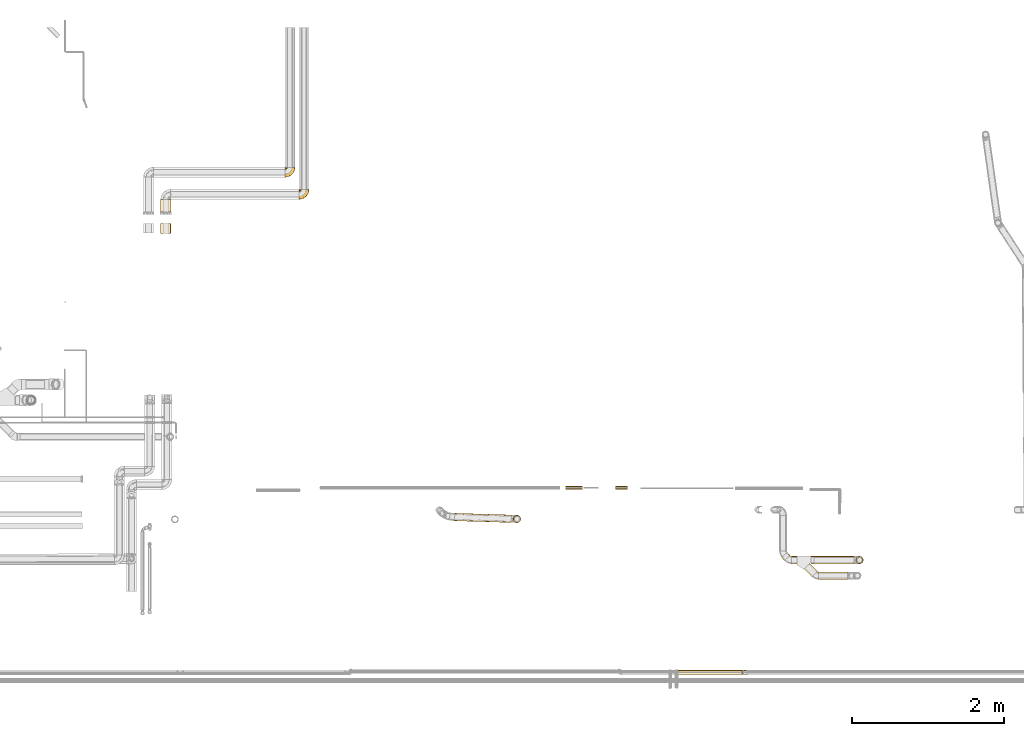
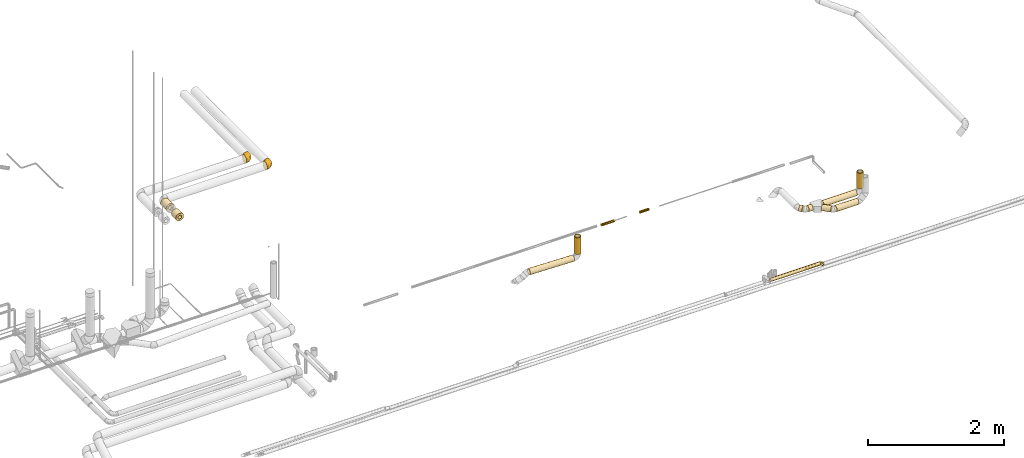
# One storey, part 5 of 156: 16 coverings.
"""IFC2X3 building model written with IfcOpenShell, lengths in millimetres."""

from ifc_helpers import new_model, entity, si_unit, converted_unit, derived_unit, direction, frame, origin_with_axes, origin_2d_with_axis, place, context, subcontext, project, spatial, hollow_circle, extrude, open_shell, surface_model, source, transform, mapped, element, save


model = new_model("IFC2X3")

# Units and contexts
model_context = context("Model", 3, precision=0.01, world=frame((0.0, 4.29681676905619e-09, 0.0)), true_north=direction((4.01073788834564e-13, 1.0)))
plan_context = context("Plan", 3, precision=0.01, world=frame((0.0, 4.29681676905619e-09, 0.0)), true_north=direction((4.01073788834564e-13, 1.0)))
body_context = subcontext(model_context, "Body", "Model", "MODEL_VIEW")
ifc_project = project(units=[converted_unit("PLANEANGLEUNIT", "DEGREE", entity("IfcPositiveLengthMeasure", 0.0174532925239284), si_unit("PLANEANGLEUNIT", "RADIAN"), dimensions=[0, 0, 0, 0, 0, 0, 0]), si_unit("AREAUNIT", "SQUARE_METRE"), si_unit("LENGTHUNIT", "METRE", prefix="MILLI"), si_unit("MASSUNIT", "GRAM", prefix="KILO"), si_unit("POWERUNIT", "WATT"), si_unit("PRESSUREUNIT", "PASCAL", prefix="KILO"), si_unit("FORCEUNIT", "NEWTON", prefix="KILO"), si_unit("ELECTRICVOLTAGEUNIT", "VOLT"), si_unit("ELECTRICCURRENTUNIT", "AMPERE"), si_unit("THERMODYNAMICTEMPERATUREUNIT", "DEGREE_CELSIUS"), si_unit("TIMEUNIT", "SECOND"), si_unit("VOLUMEUNIT", "CUBIC_METRE"), derived_unit("LINEARVELOCITYUNIT", [(si_unit("LENGTHUNIT", "METRE"), 1), (si_unit("TIMEUNIT", "SECOND"), -1)]), derived_unit("VOLUMETRICFLOWRATEUNIT", [(si_unit("VOLUMEUNIT", "CUBIC_METRE"), 1), (si_unit("TIMEUNIT", "SECOND"), -1)]), derived_unit("THERMALTRANSMITTANCEUNIT", [(si_unit("POWERUNIT", "WATT"), 1), (si_unit("THERMODYNAMICTEMPERATUREUNIT", "KELVIN"), -1), (si_unit("AREAUNIT", "SQUARE_METRE"), -1)]), derived_unit("SOUNDPRESSUREUNIT", [(si_unit("PRESSUREUNIT", "PASCAL"), 1)])], contexts=[model_context, plan_context])

# Site, building, storey
site_placement = place(None, frame((0.0, -4.29681676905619e-09, 0.0), z_axis=(0.0, 0.0, 1.0), x_axis=(1.0, 0.0, 0.0)))
site = spatial("IfcSite", under=ifc_project, at=site_placement, CompositionType="ELEMENT")
building_placement = place(site_placement, frame((0.0, 4.29681676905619e-09, 0.0), z_axis=(0.0, 0.0, 1.0), x_axis=(1.0, 0.0, 0.0)))
building = spatial("IfcBuilding", under=site, at=building_placement, Name="mc-building", CompositionType="ELEMENT")
storey_placement = place(building_placement, frame((0.0, 0.0, 205200.0), z_axis=(0.0, 0.0, 1.0), x_axis=(1.0, 0.0, 0.0)))
storey = spatial("IfcBuildingStorey", under=building, at=storey_placement, Name="Nivå D + 1,2 m", CompositionType="ELEMENT", Elevation=205200.0)

# Coverings
shared_shape_1 = source(origin_with_axes(), body_context, "Body", "SurfaceModel", [
    surface_model("IfcShellBasedSurfaceModel", [(13.1732, 65.0, 66.20209), (25.83774, 65.0, 62.35913), (37.50754, 65.0, 56.11983), (0.0, 65.0, 67.5), (62.36357, 65.0, 25.82703), (66.2036, 65.0, 13.1656), (47.7349, 65.0, 47.72452), (56.12755, 65.0, 37.49598), (-14.37401, 65.0, 65.95178), (-64.81475, 65.0, -18.84935), (-51.08854, 65.0, 44.11588), (-28.09151, 65.0, 61.37685), (-40.51981, 65.0, 53.98514), (-64.81475, 65.0, 18.84935), (-59.31267, 65.0, 32.22201), (66.20209, 65.0, -13.1732), (67.5, 65.0, 0.0), (56.11983, 65.0, -37.50754), (62.35913, 65.0, -25.83774), (47.72452, 65.0, -47.7349), (37.49598, 65.0, -56.12755), (25.82703, 65.0, -62.36357), (-40.52239, 65.0, -53.98321), (-51.09064, 65.0, -44.11345), (-59.31419, 65.0, -32.21921), (-28.09443, 65.0, -61.37551), (0.0, 65.0, -67.5), (-14.37712, 65.0, -65.95111), (13.1656, 65.0, -66.2036), (-65.0, 64.81475, -18.84935), (-65.0, 57.87557, -34.73714), (-65.0, 47.11836, -48.33333), (-65.0, 33.25277, -58.74099), (-65.0, 17.19351, -65.27353), (-65.0, 64.81475, 18.84935), (-65.0, -33.75, 58.45672), (-65.0, 57.87557, 34.73714), (-65.0, 33.25277, 58.74099), (-65.0, 47.11836, 48.33333), (-65.0, 0.0, 67.5), (-65.0, 17.19351, 65.27353), (-65.0, 0.0, -67.5), (-65.0, -17.47029, -65.19999), (-65.0, -67.5, 0.0), (-65.0, -58.45672, -33.75), (-65.0, -33.75, -58.45672), (-65.0, -47.72971, -47.72971), (-65.0, -65.19999, -17.47029), (-65.0, -47.72971, 47.72971), (-65.0, -17.47029, 65.19999), (-65.0, -58.45672, 33.75), (-65.0, -65.19999, 17.47029), (-64.86901, 64.86901, 18.84935), (-64.86901, 64.86901, -18.84935), (-62.35297, 53.22925, -41.88204), (-63.78423, 60.63473, -29.99667), (-59.45918, 54.28289, -41.88204), (-51.69965, 42.79725, -55.00915), (-58.92632, 41.28656, -53.98417), (-64.97489, 64.82515, -18.84935), (-60.99561, 60.00362, -33.50592), (-62.83434, 60.76841, -30.4404), (-64.90176, 64.85544, -18.84935), (-50.86682, 28.04405, -62.52499), (-57.92381, 24.04777, -63.29908), (-50.90167, 14.37918, -66.34141), (-37.08653, 31.39033, -64.04773), (-29.58182, 11.99295, -67.5), (-40.36853, 19.80167, -66.13096), (-55.46376, 1.89688, -67.5), (-54.1914, 53.04137, -46.55035), (-23.48796, 51.53459, -64.03169), (-35.44219, 58.51372, -57.87452), (-1.89688, 55.46376, -67.5), (-19.03806, 19.03806, -67.5), (-28.84083, 40.49015, -64.04563), (-45.93357, 58.13982, -50.54557), (-64.83555, 64.94978, -18.84935), (-43.55475, 44.96694, -57.31565), (-4.94783, 40.12558, -67.5), (-64.85228, 64.9094, -18.84935), (-55.95504, 62.1673, -38.38718), (-59.35288, 60.73167, -34.6609), (-37.17686, 51.38247, -58.29815), (-49.05026, 54.8073, -49.33215), (-11.99295, 29.58182, -67.5), (-64.9345, 64.84188, -18.84935), (-40.12558, 4.94783, -67.5), (-52.74634, 2.4374, -67.5), (-42.51157, -9.52295, -66.2671), (62.98517, 30.70648, 0.0), (60.34861, 32.11006, -19.59988), (7.28209, 26.69247, -65.37446), (17.51571, 46.37925, -64.59456), (25.45053, 30.47784, -59.53215), (-9.86721, -24.12514, -54.51842), (-12.17277, -41.13061, -41.0914), (-38.26551, -37.66767, -53.55135), (-32.07934, -19.65533, -62.36187), (-9.01246, -1.18966, -63.9192), (38.39188, 36.73619, -52.6938), (30.43395, 48.7077, -59.53215), (-49.4847, -21.90434, -63.359), (28.69165, -28.69165, 0.0), (38.50326, -14.42084, -16.45739), (49.74837, -1.25, 0.0), (-26.34544, -2.34013, -66.30486), (-28.9987, -57.16772, -25.83113), (-40.01142, -50.88785, -41.0914), (-40.23864, -63.93244, -12.73067), (13.27406, -37.00874, -22.67012), (18.34903, -3.39087, -52.18245), (35.48999, 13.46262, -47.52341), (28.03747, -10.89182, -39.04005), (-2.47392, 52.56279, -67.5), (13.31742, 11.06376, -60.42055), (48.33699, 35.26235, -42.82742), (1.25, -49.74837, 0.0), (55.58243, 33.90777, -31.82524), (47.1962, 10.97433, -31.82591), (10.54857, -30.74404, -36.21718), (1.99991, -27.22627, -46.43081), (-14.75381, -56.30503, -12.67322), (-7.01775, -49.35414, -23.6696), (51.32465, 7.6704, -19.29111), (-30.70648, -62.98517, 0.0), (0.244, 12.31909, -64.81242), (3.6701, -5.45972, -58.66435), (36.98055, -9.37937, -28.42458), (48.52829, 33.96524, 42.18547), (51.34601, 20.59434, 31.81466), (57.75615, 44.0433, 31.81466), (-28.34115, -60.77084, 14.13005), (-16.26073, -52.66703, 25.83113), (-42.88385, -60.42696, 25.83113), (37.5083, -13.65738, 20.81995), (22.2387, 22.99208, 59.52614), (16.82988, 43.52884, 64.59175), (5.27267, 25.31169, 65.6474), (35.12366, 13.6505, 47.93511), (15.62004, -0.76277, 55.06473), (25.58961, -9.33201, 42.81638), (-34.31666, -49.51181, 41.0914), (-2.14331, -36.32511, 40.18049), (-17.725, -29.97609, 53.55135), (-5.8464, -51.68872, 14.94009), (14.49533, -38.60032, 15.96281), (39.0394, -2.37839, 32.87761), (-42.65822, -9.03699, 66.36346), (-39.32482, -22.1268, 62.36187), (-52.74634, 2.4374, 67.5), (18.51015, -28.28032, 30.53115), (-42.63776, -38.70783, 53.55135), (52.44199, 9.85636, 19.0918), (61.41574, 36.47263, 19.59063), (39.29703, 37.63428, 52.17338), (28.75854, 40.82432, 59.5265), (-0.80851, -10.86712, 58.08848), (-25.06949, -14.2506, 63.18685), (-6.08758, 12.63645, 66.07007), (-29.58182, 11.99295, 67.5), (-27.583, -2.4399, 66.40218), (-40.12558, 4.94783, 67.5), (-2.47392, 52.56279, 67.5), (-4.94783, 40.12558, 67.5), (8.13231, 9.85971, 62.04196), (4.6081, -20.53967, 50.05704), (-11.99295, 29.58182, 67.5), (-19.03806, 19.03806, 67.5), (-12.13012, -4.71198, 63.64217), (-55.46376, 1.89688, 67.5), (-51.31051, 50.10809, 50.51452), (-58.83063, 56.06256, 40.31262), (-53.07544, 43.62194, 53.98417), (-61.39668, 53.48595, 41.88204), (-59.33203, 41.18634, 53.98417), (-38.67692, 30.21324, 64.02579), (-40.80843, 18.77841, 66.26938), (-53.18292, 27.23963, 62.52499), (-62.39323, 61.71268, 29.30964), (-62.71992, 60.35042, 31.2673), (-24.35909, 37.3903, 65.60842), (-55.876, 57.84764, 41.27918), (-48.33586, 52.86998, 50.85179), (-52.15697, 58.33043, 44.75633), (-50.72259, 13.73618, 66.46323), (-63.72097, 60.14876, 30.95628), (-23.37818, 51.86775, 64.03271), (-1.89688, 55.46376, 67.5), (-38.9734, 49.10623, 58.01476), (-36.16929, 55.0609, 58.01476), (-61.49541, 62.05581, 30.08872), (-64.85228, 64.9094, 18.84935), (-46.94651, 59.30387, 49.33434), (-64.83555, 64.94978, 18.84935), (-57.76525, 62.98421, 35.37213), (-59.8704, 62.17048, 32.53464), (-45.47025, 40.87928, 58.33251), (-64.9094, 64.85228, 18.84935), (-64.94978, 64.83555, 18.84935)], [open_shell([[[0, 1, 2]], [[3, 0, 2]], [[4, 5, 6]], [[6, 7, 4]], [[8, 2, 9]], [[6, 9, 2]], [[8, 10, 11]], [[8, 3, 2]], [[12, 11, 10]], [[9, 13, 14]], [[14, 10, 9]], [[10, 8, 9]], [[9, 6, 5]], [[15, 9, 16]], [[17, 15, 18]], [[15, 19, 9]], [[20, 21, 19]], [[19, 15, 17]], [[21, 9, 19]], [[22, 23, 9]], [[24, 9, 23]], [[22, 9, 25]], [[26, 27, 9]], [[25, 9, 27]], [[9, 28, 26]], [[9, 21, 28]], [[16, 9, 5]], [[29, 30, 31]], [[31, 32, 33]], [[29, 31, 34]], [[31, 35, 36]], [[36, 37, 38]], [[36, 34, 31]], [[37, 39, 40]], [[35, 39, 37]], [[37, 36, 35]], [[31, 33, 41]], [[42, 43, 31]], [[44, 42, 45]], [[42, 44, 43]], [[44, 45, 46]], [[47, 43, 44]], [[35, 43, 48]], [[49, 39, 35]], [[50, 43, 51]], [[43, 50, 48]], [[43, 35, 31]], [[42, 31, 41]], [[29, 34, 52]], [[53, 29, 52]], [[13, 9, 52]], [[53, 52, 9]], [[54, 55, 56]], [[57, 58, 56]], [[30, 29, 59]], [[54, 58, 31]], [[60, 61, 62]], [[58, 63, 64]], [[33, 64, 65]], [[66, 67, 68]], [[65, 64, 63]], [[33, 65, 69]], [[56, 70, 57]], [[25, 71, 72]], [[30, 54, 31]], [[27, 26, 73]], [[74, 66, 75]], [[76, 22, 72]], [[22, 76, 23]], [[58, 32, 31]], [[58, 57, 63]], [[77, 9, 24]], [[60, 70, 56]], [[66, 78, 75]], [[79, 71, 73]], [[80, 81, 82]], [[24, 81, 77]], [[27, 73, 71]], [[27, 71, 25]], [[65, 63, 68]], [[71, 83, 72]], [[24, 23, 81]], [[82, 84, 70]], [[57, 66, 63]], [[78, 57, 70]], [[83, 78, 84]], [[59, 55, 30]], [[58, 54, 56]], [[70, 60, 82]], [[78, 70, 84]], [[80, 77, 81]], [[81, 84, 82]], [[75, 83, 71]], [[57, 78, 66]], [[75, 79, 85]], [[55, 59, 86]], [[69, 65, 87]], [[69, 41, 33]], [[68, 63, 66]], [[82, 53, 80]], [[87, 65, 68]], [[61, 56, 55]], [[53, 82, 60]], [[78, 83, 75]], [[76, 72, 83]], [[83, 84, 76]], [[25, 72, 22]], [[84, 81, 76]], [[23, 76, 81]], [[55, 86, 61]], [[30, 55, 54]], [[62, 53, 60]], [[60, 56, 61]], [[61, 86, 62]], [[33, 32, 64]], [[58, 64, 32]], [[67, 66, 74]], [[67, 87, 68]], [[79, 75, 71]], [[85, 74, 75]], [[88, 89, 42]], [[88, 87, 89]], [[15, 90, 91]], [[92, 93, 94]], [[95, 96, 97]], [[95, 98, 99]], [[100, 94, 101]], [[89, 102, 42]], [[103, 104, 105]], [[21, 93, 28]], [[74, 99, 106]], [[18, 15, 91]], [[107, 44, 108]], [[47, 109, 43]], [[104, 103, 110]], [[44, 107, 47]], [[44, 46, 108]], [[45, 97, 46]], [[102, 97, 45]], [[111, 112, 113]], [[26, 28, 114]], [[94, 112, 115]], [[19, 17, 116]], [[100, 19, 116]], [[103, 117, 110]], [[118, 91, 119]], [[101, 93, 21]], [[28, 93, 114]], [[120, 96, 121]], [[122, 109, 107]], [[110, 117, 122]], [[123, 96, 120]], [[105, 104, 124]], [[122, 117, 125]], [[100, 112, 94]], [[124, 90, 105]], [[18, 118, 17]], [[126, 127, 99]], [[15, 16, 90]], [[116, 118, 119]], [[111, 115, 112]], [[92, 79, 93]], [[95, 97, 98]], [[20, 101, 21]], [[108, 97, 96]], [[126, 85, 92]], [[110, 120, 128]], [[91, 124, 119]], [[106, 98, 89]], [[121, 113, 120]], [[92, 115, 126]], [[115, 92, 94]], [[20, 19, 100]], [[93, 101, 94]], [[100, 101, 20]], [[100, 116, 112]], [[116, 119, 112]], [[113, 112, 119]], [[128, 113, 119]], [[113, 128, 120]], [[97, 108, 46]], [[107, 108, 96]], [[42, 41, 88]], [[106, 89, 87]], [[89, 98, 102]], [[106, 87, 67]], [[98, 106, 99]], [[97, 102, 98]], [[45, 42, 102]], [[127, 115, 111]], [[115, 127, 126]], [[109, 122, 125]], [[123, 122, 107]], [[43, 109, 125]], [[107, 109, 47]], [[121, 127, 111]], [[74, 106, 67]], [[95, 99, 127]], [[99, 74, 126]], [[124, 91, 90]], [[96, 123, 107]], [[110, 122, 123]], [[17, 118, 116]], [[18, 91, 118]], [[93, 79, 114]], [[85, 126, 74]], [[85, 79, 92]], [[128, 124, 104]], [[124, 128, 119]], [[110, 128, 104]], [[123, 120, 110]], [[121, 96, 95]], [[127, 121, 95]], [[113, 121, 111]], [[129, 130, 131]], [[43, 125, 132]], [[132, 133, 134]], [[105, 135, 103]], [[136, 137, 138]], [[139, 140, 141]], [[142, 143, 144]], [[145, 146, 133]], [[141, 147, 139]], [[117, 103, 146]], [[148, 49, 149]], [[49, 148, 150]], [[151, 146, 135]], [[152, 149, 35]], [[35, 48, 152]], [[134, 50, 51]], [[139, 147, 130]], [[50, 134, 142]], [[35, 149, 49]], [[103, 135, 146]], [[130, 153, 154]], [[152, 142, 144]], [[129, 6, 155]], [[147, 135, 153]], [[5, 4, 154]], [[6, 2, 155]], [[137, 1, 0]], [[154, 4, 131]], [[16, 5, 90]], [[1, 156, 2]], [[157, 158, 144]], [[50, 142, 48]], [[159, 160, 161]], [[137, 136, 156]], [[162, 148, 161]], [[139, 130, 129]], [[0, 163, 137]], [[153, 90, 154]], [[138, 137, 164]], [[156, 136, 155]], [[90, 5, 154]], [[147, 153, 130]], [[140, 136, 165]], [[7, 131, 4]], [[143, 142, 133]], [[144, 143, 166]], [[151, 141, 143]], [[145, 133, 132]], [[151, 133, 146]], [[166, 141, 140]], [[7, 6, 129]], [[154, 131, 130]], [[129, 131, 7]], [[129, 155, 139]], [[155, 136, 139]], [[140, 139, 136]], [[165, 136, 138]], [[157, 144, 166]], [[159, 167, 168]], [[138, 159, 165]], [[142, 152, 48]], [[149, 152, 144]], [[150, 148, 162]], [[150, 39, 49]], [[161, 158, 169]], [[158, 148, 149]], [[161, 169, 159]], [[135, 105, 153]], [[160, 162, 161]], [[90, 153, 105]], [[151, 135, 147]], [[133, 151, 143]], [[148, 158, 161]], [[144, 158, 149]], [[51, 43, 132]], [[142, 134, 133]], [[51, 132, 134]], [[145, 125, 117]], [[125, 145, 132]], [[117, 146, 145]], [[167, 159, 138]], [[157, 165, 169]], [[159, 168, 160]], [[169, 165, 159]], [[141, 166, 143]], [[157, 166, 140]], [[165, 157, 140]], [[157, 169, 158]], [[2, 156, 155]], [[1, 137, 156]], [[163, 0, 3]], [[163, 164, 137]], [[151, 147, 141]], [[138, 164, 167]], [[40, 39, 170]], [[171, 172, 173]], [[173, 174, 175]], [[175, 38, 37]], [[176, 177, 160]], [[176, 173, 178]], [[172, 179, 180]], [[181, 176, 168]], [[175, 37, 178]], [[182, 183, 184]], [[172, 174, 173]], [[174, 36, 38]], [[178, 185, 177]], [[186, 174, 180]], [[187, 188, 8]], [[189, 184, 183]], [[11, 12, 190]], [[52, 191, 192]], [[181, 187, 189]], [[190, 12, 193]], [[14, 13, 194]], [[187, 181, 164]], [[37, 40, 178]], [[195, 10, 14]], [[8, 188, 3]], [[193, 12, 10]], [[171, 182, 172]], [[189, 187, 190]], [[191, 182, 196]], [[11, 187, 8]], [[185, 170, 162]], [[34, 36, 186]], [[189, 183, 197]], [[173, 175, 178]], [[164, 188, 187]], [[174, 38, 175]], [[181, 189, 197]], [[181, 168, 167]], [[52, 179, 191]], [[179, 182, 191]], [[177, 185, 162]], [[170, 185, 40]], [[40, 185, 178]], [[160, 168, 176]], [[178, 177, 176]], [[177, 162, 160]], [[197, 171, 173]], [[183, 182, 171]], [[173, 176, 197]], [[197, 176, 181]], [[197, 183, 171]], [[184, 189, 193]], [[195, 184, 193]], [[196, 194, 192]], [[10, 195, 193]], [[14, 194, 195]], [[182, 184, 196]], [[184, 195, 196]], [[194, 196, 195]], [[192, 191, 196]], [[179, 172, 182]], [[52, 198, 179]], [[199, 186, 180]], [[180, 179, 198]], [[199, 180, 198]], [[174, 172, 180]], [[34, 186, 199]], [[36, 174, 186]], [[190, 187, 11]], [[193, 189, 190]], [[164, 181, 167]]])]),
])
for number, where, z_axis, x_axis in (
    (1, (331935.29993, 465599.02228, 4232.15388999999), (0.0, 0.0, 1.0), (1.0, 0.0, 0.0)),
    (2, (332120.29993, 465309.02229, 4224.29453000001), (0.0, 0.0, 1.0), (1.0, 0.0, 0.0)),
):
    element("IfcCovering", number, at=place(storey_placement, frame(where, z_axis=z_axis, x_axis=x_axis)), inside=storey, Name="BI10T - Cellegummi 18-32 mm kalde rør", PredefinedType="INSULATION", context=body_context, shape_type="MappedRepresentation", body=[
        mapped(shared_shape_1, transform((0.0, 0.0, 0.0), scale=1.0)),
    ])
shared_shape_2 = source(origin_with_axes(), body_context, "Body", "SweptSolid", [
    extrude(hollow_circle(Radius=50.5, WallThickness=13.0, at=origin_2d_with_axis()), frame((0.0, 0.0, 0.0), z_axis=(1.0, 0.0, 0.0), x_axis=(0.0, 1.0, 0.0)), (0.0, 0.0, 1.0), 54.8),
])
covering_1_placement = place(storey_placement, frame((338424.79776, 460578.07805, 4098.75644), z_axis=(0.0, 0.0, 1.0), x_axis=(0.642788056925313, -0.766044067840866, 0.0)))
element("IfcCovering", 3, at=covering_1_placement, inside=storey, Name="BI17T - Cellegummi 13 mm SPV fett", PredefinedType="INSULATION", context=body_context, shape_type="MappedRepresentation", body=[
    mapped(shared_shape_2, transform((0.0, 0.0, 0.0), scale=1.0)),
])
shared_shape_3 = source(origin_with_axes(), body_context, "Body", "SweptSolid", [
    extrude(hollow_circle(Radius=50.5, WallThickness=13.0, at=origin_2d_with_axis()), frame((0.0, 0.0, 0.0), z_axis=(1.0, 0.0, 0.0), x_axis=(0.0, 1.0, 0.0)), (0.0, 0.0, 1.0), 565.0),
])
covering_2_placement = place(storey_placement, frame((339336.91478, 460509.27805, 4098.75644), z_axis=(0.0, 0.0, 1.0), x_axis=(-1.0, 0.0, 0.0)))
element("IfcCovering", 4, at=covering_2_placement, inside=storey, Name="BI17T - Cellegummi 13 mm SPV fett", PredefinedType="INSULATION", context=body_context, shape_type="MappedRepresentation", body=[
    mapped(shared_shape_3, transform((0.0, 0.0, 0.0), scale=1.0)),
])
shared_shape_4 = source(origin_with_axes(), body_context, "Body", "SweptSolid", [
    extrude(hollow_circle(Radius=50.5, WallThickness=13.0, at=origin_2d_with_axis()), frame((0.0, 0.0, 0.0), z_axis=(1.0, 0.0, 0.0), x_axis=(0.0, 1.0, 0.0)), (0.0, 0.0, 1.0), 143.4),
])
covering_3_placement = place(storey_placement, frame((338720.39827, 460427.58387, 4098.23676), z_axis=(0.0, 0.0, 1.0), x_axis=(0.707106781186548, -0.707106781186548, 0.0)))
element("IfcCovering", 5, at=covering_3_placement, inside=storey, Name="BI17T - Cellegummi 13 mm SPV fett", PredefinedType="INSULATION", context=body_context, shape_type="MappedRepresentation", body=[
    mapped(shared_shape_4, transform((0.0, 0.0, 0.0), scale=1.0)),
])
shared_shape_5 = source(origin_with_axes(), body_context, "Body", "SweptSolid", [
    extrude(hollow_circle(Radius=50.5, WallThickness=13.0, at=origin_2d_with_axis()), frame((0.0, 0.0, 0.0), z_axis=(1.0, 0.0, 0.0), x_axis=(0.0, 1.0, 0.0)), (0.0, 0.0, 1.0), 69.7),
])
covering_4_placement = place(storey_placement, frame((338517.50089, 460509.27805, 4098.75644), z_axis=(0.0, 0.0, 1.0), x_axis=(1.0, 0.0, 0.0)))
element("IfcCovering", 6, at=covering_4_placement, inside=storey, Name="BI17T - Cellegummi 13 mm SPV fett", PredefinedType="INSULATION", context=body_context, shape_type="MappedRepresentation", body=[
    mapped(shared_shape_5, transform((0.0, 0.0, 0.0), scale=1.0)),
])
shared_shape_6 = source(origin_with_axes(), body_context, "Body", "SweptSolid", [
    extrude(hollow_circle(Radius=50.5, WallThickness=13.0, at=origin_2d_with_axis()), frame((0.0, 0.0, 0.0), z_axis=(1.0, 0.0, 0.0), x_axis=(0.0, 1.0, 0.0)), (0.0, 0.0, 1.0), 375.2),
])
covering_5_placement = place(storey_placement, frame((338874.83108, 460304.21708, 4098.23676), z_axis=(0.0, 0.0, 1.0), x_axis=(1.0, 0.0, 0.0)))
element("IfcCovering", 7, at=covering_5_placement, inside=storey, Name="BI17T - Cellegummi 13 mm SPV fett", PredefinedType="INSULATION", context=body_context, shape_type="MappedRepresentation", body=[
    mapped(shared_shape_6, transform((0.0, 0.0, 0.0), scale=1.0)),
])
shared_shape_7 = source(origin_with_axes(), body_context, "Body", "SweptSolid", [
    extrude(hollow_circle(Radius=50.5, WallThickness=13.0, at=origin_2d_with_axis()), frame((0.0, 0.0, 0.0), z_axis=(1.0, 0.0, 0.0), x_axis=(0.0, 1.0, 0.0)), (0.0, 0.0, 1.0), 282.3),
])
covering_6_placement = place(storey_placement, frame((339411.91478, 460509.27805, 4456.08348999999), z_axis=(-1.0, 0.0, 0.0), x_axis=(0.0, 0.0, -1.0)))
element("IfcCovering", 8, at=covering_6_placement, inside=storey, Name="BI17T - Cellegummi 13 mm SPV fett", PredefinedType="INSULATION", context=body_context, shape_type="MappedRepresentation", body=[
    mapped(shared_shape_7, transform((0.0, 0.0, 0.0), scale=1.0)),
])
shared_shape_8 = source(origin_with_axes(), body_context, "Body", "SweptSolid", [
    extrude(hollow_circle(Radius=50.5, WallThickness=13.0, at=origin_2d_with_axis()), frame((0.0, 0.0, 0.0), z_axis=(1.0, 0.0, 0.0), x_axis=(0.0, 1.0, 0.0)), (0.0, 0.0, 1.0), 742.4),
])
covering_7_placement = place(storey_placement, frame((334840.28916, 461051.12619, 4166.80840000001), z_axis=(0.00501699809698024, 0.163541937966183, -0.986523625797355), x_axis=(-0.999529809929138, 0.0306620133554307, -1.15626422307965e-07)))
element("IfcCovering", 9, at=covering_7_placement, inside=storey, Name="BI17T - Cellegummi 13 mm SPV fett", PredefinedType="INSULATION", context=body_context, shape_type="MappedRepresentation", body=[
    mapped(shared_shape_8, transform((0.0, 0.0, 0.0), scale=1.0)),
])
shared_shape_9 = source(origin_with_axes(), body_context, "Body", "SweptSolid", [
    extrude(hollow_circle(Radius=50.5, WallThickness=13.0, at=origin_2d_with_axis()), frame((0.0, 0.0, 0.0), z_axis=(1.0, 0.0, 0.0), x_axis=(0.0, 1.0, 0.0)), (0.0, 0.0, 1.0), 300.6),
])
covering_8_placement = place(storey_placement, frame((334915.24567, 461048.55858, 4542.40012000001), z_axis=(-0.999529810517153, 0.030661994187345, 0.0), x_axis=(0.0, 0.0, -1.0)))
element("IfcCovering", 10, at=covering_8_placement, inside=storey, Name="BI17T - Cellegummi 13 mm SPV fett", PredefinedType="INSULATION", context=body_context, shape_type="MappedRepresentation", body=[
    mapped(shared_shape_9, transform((0.0, 0.0, 0.0), scale=1.0)),
])
shared_shape_10 = source(origin_with_axes(), body_context, "Body", "SweptSolid", [
    extrude(hollow_circle(Radius=30.0, WallThickness=25.0, at=origin_2d_with_axis()), frame((0.0, 0.0, 0.0), z_axis=(1.0, 0.0, 0.0), x_axis=(0.0, 1.0, 0.0)), (0.0, 0.0, 1.0), 848.5),
])
covering_9_placement = place(storey_placement, frame((337026.80356, 459036.28638, 4228.32044000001), z_axis=(0.0, 0.0, 1.0), x_axis=(1.0, 0.0, 0.0)))
element("IfcCovering", 11, at=covering_9_placement, inside=storey, Name="BI10T - Cellegummi 18-32 mm kalde rør", PredefinedType="INSULATION", context=body_context, shape_type="MappedRepresentation", body=[
    mapped(shared_shape_10, transform((0.0, 0.0, 0.0), scale=1.0)),
])
shared_shape_11 = source(origin_with_axes(), body_context, "Body", "SweptSolid", [
    extrude(hollow_circle(Radius=30.0, WallThickness=25.0, at=origin_2d_with_axis()), frame((0.0, 0.0, 0.0), z_axis=(1.0, 0.0, 0.0), x_axis=(0.0, 1.0, 0.0)), (0.0, 0.0, 1.0), 56.1),
])
covering_10_placement = place(storey_placement, frame((337930.52806, 459036.28638, 4204.21677999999), z_axis=(0.413803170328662, 0.0, 0.910366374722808), x_axis=(-0.910366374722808, 0.0, 0.413803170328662)))
element("IfcCovering", 12, at=covering_10_placement, inside=storey, Name="BI10T - Cellegummi 18-32 mm kalde rør", PredefinedType="INSULATION", context=body_context, shape_type="MappedRepresentation", body=[
    mapped(shared_shape_11, transform((0.0, 0.0, 0.0), scale=1.0)),
])
shared_shape_12 = source(origin_with_axes(), body_context, "Body", "SweptSolid", [
    extrude(hollow_circle(Radius=67.5, WallThickness=35.0, at=origin_2d_with_axis()), frame((0.0, 0.0, 0.0), z_axis=(1.0, 0.0, 0.0), x_axis=(0.0, 1.0, 0.0)), (0.0, 0.0, 1.0), 166.1),
])
covering_11_placement = place(storey_placement, frame((330305.51749, 465077.88331, 4223.01016000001), z_axis=(-1.0, 0.0, 0.0), x_axis=(0.0, 1.0, 0.0)))
element("IfcCovering", 13, at=covering_11_placement, inside=storey, Name="BI10T - Cellegummi 18-32 mm kalde rør", PredefinedType="INSULATION", context=body_context, shape_type="MappedRepresentation", body=[
    mapped(shared_shape_12, transform((0.0, 0.0, 0.0), scale=1.0)),
])
shared_shape_13 = source(origin_with_axes(), body_context, "Body", "SweptSolid", [
    extrude(hollow_circle(Radius=21.0, WallThickness=15.0, at=origin_2d_with_axis()), frame((0.0, 0.0, 0.0), z_axis=(1.0, 0.0, 0.0), x_axis=(0.0, 1.0, 0.0)), (0.0, 0.0, 1.0), 160.0),
])
covering_12_placement = place(storey_placement, frame((336365.95588, 461458.25941, 4266.92687), z_axis=(0.0, 0.0, 1.0), x_axis=(-1.0, 0.0, 0.0)))
element("IfcCovering", 14, at=covering_12_placement, inside=storey, Name="BI10T - Cellegummi 18-32 mm kalde rør", PredefinedType="INSULATION", context=body_context, shape_type="MappedRepresentation", body=[
    mapped(shared_shape_13, transform((0.0, 0.0, 0.0), scale=1.0)),
])
shared_shape_14 = source(origin_with_axes(), body_context, "Body", "SweptSolid", [
    extrude(hollow_circle(Radius=67.5, WallThickness=35.0, at=origin_2d_with_axis()), frame((0.0, 0.0, 0.0), z_axis=(1.0, 0.0, 0.0), x_axis=(0.0, 1.0, 0.0)), (0.0, 0.0, 1.0), 135.9),
])
covering_13_placement = place(storey_placement, frame((330305.51687, 464793.39143, 4222.86663), z_axis=(0.0, -0.000372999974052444, 0.999999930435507), x_axis=(1.99999986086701e-06, 0.999999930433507, 0.000372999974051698)))
element("IfcCovering", 15, at=covering_13_placement, inside=storey, Name="BI10T - Cellegummi 18-32 mm kalde rør", PredefinedType="INSULATION", context=body_context, shape_type="MappedRepresentation", body=[
    mapped(shared_shape_14, transform((0.0, 0.0, 0.0), scale=1.0)),
])
shared_shape_15 = source(origin_with_axes(), body_context, "Body", "SweptSolid", [
    extrude(hollow_circle(Radius=21.0, WallThickness=15.0, at=origin_2d_with_axis()), frame((0.0, 0.0, 0.0), z_axis=(1.0, 0.0, 0.0), x_axis=(0.0, 1.0, 0.0)), (0.0, 0.0, 1.0), 219.3),
])
covering_14_placement = place(storey_placement, frame((335554.64133, 461458.25941, 4266.92687), z_axis=(0.0, 0.0, 1.0), x_axis=(1.0, 0.0, 0.0)))
element("IfcCovering", 16, at=covering_14_placement, inside=storey, Name="BI10T - Cellegummi 18-32 mm kalde rør", PredefinedType="INSULATION", context=body_context, shape_type="MappedRepresentation", body=[
    mapped(shared_shape_15, transform((0.0, 0.0, 0.0), scale=1.0)),
])

save(model, "model.ifc")
